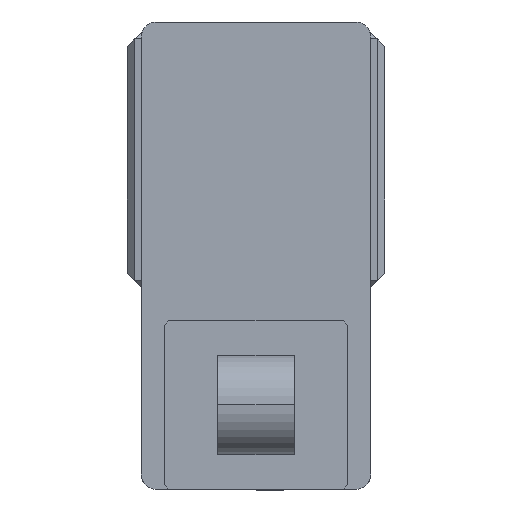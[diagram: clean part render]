
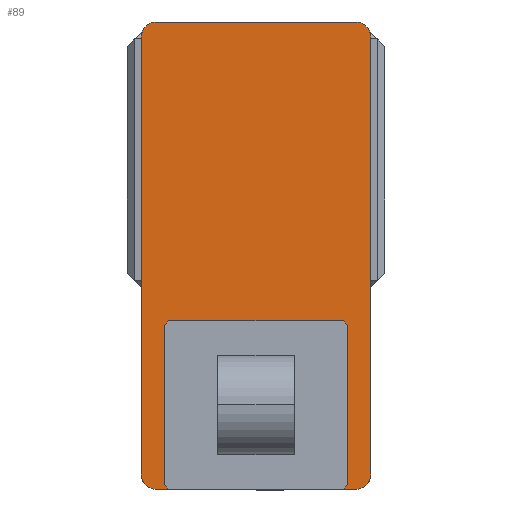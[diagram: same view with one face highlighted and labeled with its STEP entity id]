
A CAD part, left-side view. The second image highlights one B-rep face of the part: STEP entity #89.
In plain terms, the highlighted planar face has unit normal (-1, 0, 0) as drawn and (0, 0, 1) by its records, which use the part's own axes.
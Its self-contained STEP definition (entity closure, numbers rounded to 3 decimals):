
#44 = LINE ( 'NONE', #5698, #8884 ) ;
#89 = ADVANCED_FACE ( 'NONE', ( #10494 ), #9884, .T. ) ;
#474 = ORIENTED_EDGE ( 'NONE', *, *, #2447, .T. ) ;
#800 = CIRCLE ( 'NONE', #1711, 10. ) ;
#1438 = DIRECTION ( 'NONE',  ( -1., 0., 0. ) ) ;
#1464 = EDGE_CURVE ( 'NONE', #2523, #4022, #10730, .T. ) ;
#1531 = VECTOR ( 'NONE', #9940, 1000. ) ;
#1606 = DIRECTION ( 'NONE',  ( 0., 0., 1. ) ) ;
#1686 = DIRECTION ( 'NONE',  ( 1., 0., 0. ) ) ;
#1711 = AXIS2_PLACEMENT_3D ( 'NONE', #6630, #6896, #7592 ) ;
#2041 = AXIS2_PLACEMENT_3D ( 'NONE', #8061, #1606, #1686 ) ;
#2080 = ORIENTED_EDGE ( 'NONE', *, *, #2383, .T. ) ;
#2128 = EDGE_CURVE ( 'NONE', #7899, #8492, #4047, .T. ) ;
#2257 = EDGE_CURVE ( 'NONE', #8492, #9598, #5033, .T. ) ;
#2294 = EDGE_CURVE ( 'NONE', #2899, #7700, #7155, .T. ) ;
#2315 = CARTESIAN_POINT ( 'NONE',  ( -75., 142.5, 105. ) ) ;
#2383 = EDGE_CURVE ( 'NONE', #10972, #2523, #10981, .T. ) ;
#2447 = EDGE_CURVE ( 'NONE', #4022, #7899, #800, .T. ) ;
#2470 = DIRECTION ( 'NONE',  ( 1., 0., 0. ) ) ;
#2523 = VERTEX_POINT ( 'NONE', #2315 ) ;
#2532 = VECTOR ( 'NONE', #1438, 1000. ) ;
#2899 = VERTEX_POINT ( 'NONE', #8103 ) ;
#2918 = AXIS2_PLACEMENT_3D ( 'NONE', #3914, #4686, #6708 ) ;
#2966 = CARTESIAN_POINT ( 'NONE',  ( 65., -152.5, 105. ) ) ;
#3017 = AXIS2_PLACEMENT_3D ( 'NONE', #7603, #7180, #2470 ) ;
#3442 = CARTESIAN_POINT ( 'NONE',  ( 75., -142.5, 105. ) ) ;
#3473 = CARTESIAN_POINT ( 'NONE',  ( 0., 0., 105. ) ) ;
#3914 = CARTESIAN_POINT ( 'NONE',  ( 65., 142.5, 105. ) ) ;
#4001 = ORIENTED_EDGE ( 'NONE', *, *, #2294, .T. ) ;
#4022 = VERTEX_POINT ( 'NONE', #5135 ) ;
#4047 = LINE ( 'NONE', #10674, #1531 ) ;
#4686 = DIRECTION ( 'NONE',  ( 0., 0., 1. ) ) ;
#4786 = DIRECTION ( 'NONE',  ( 1., 0., 0. ) ) ;
#5033 = CIRCLE ( 'NONE', #3017, 10. ) ;
#5084 = EDGE_LOOP ( 'NONE', ( #9999, #5853, #8205, #4001, #6417, #2080, #9300, #474 ) ) ;
#5135 = CARTESIAN_POINT ( 'NONE',  ( -75., -142.5, 105. ) ) ;
#5698 = CARTESIAN_POINT ( 'NONE',  ( 75., 152.5, 105. ) ) ;
#5853 = ORIENTED_EDGE ( 'NONE', *, *, #2257, .T. ) ;
#5938 = CARTESIAN_POINT ( 'NONE',  ( -65., 152.5, 105. ) ) ;
#6152 = CARTESIAN_POINT ( 'NONE',  ( 65., 152.5, 105. ) ) ;
#6417 = ORIENTED_EDGE ( 'NONE', *, *, #11685, .T. ) ;
#6456 = AXIS2_PLACEMENT_3D ( 'NONE', #3473, #8567, #4786 ) ;
#6595 = DIRECTION ( 'NONE',  ( 0., 1., 0. ) ) ;
#6630 = CARTESIAN_POINT ( 'NONE',  ( -65., -142.5, 105. ) ) ;
#6708 = DIRECTION ( 'NONE',  ( 1., 0., 0. ) ) ;
#6876 = CARTESIAN_POINT ( 'NONE',  ( -75., 152.5, 105. ) ) ;
#6896 = DIRECTION ( 'NONE',  ( 0., 0., 1. ) ) ;
#7155 = CIRCLE ( 'NONE', #2918, 10. ) ;
#7180 = DIRECTION ( 'NONE',  ( 0., 0., 1. ) ) ;
#7592 = DIRECTION ( 'NONE',  ( 1., 0., 0. ) ) ;
#7603 = CARTESIAN_POINT ( 'NONE',  ( 65., -142.5, 105. ) ) ;
#7661 = LINE ( 'NONE', #10506, #2532 ) ;
#7700 = VERTEX_POINT ( 'NONE', #6152 ) ;
#7899 = VERTEX_POINT ( 'NONE', #8233 ) ;
#8061 = CARTESIAN_POINT ( 'NONE',  ( -65., 142.5, 105. ) ) ;
#8103 = CARTESIAN_POINT ( 'NONE',  ( 75., 142.5, 105. ) ) ;
#8205 = ORIENTED_EDGE ( 'NONE', *, *, #11376, .T. ) ;
#8233 = CARTESIAN_POINT ( 'NONE',  ( -65., -152.5, 105. ) ) ;
#8401 = VECTOR ( 'NONE', #10445, 1000. ) ;
#8492 = VERTEX_POINT ( 'NONE', #2966 ) ;
#8567 = DIRECTION ( 'NONE',  ( 0., 0., 1. ) ) ;
#8884 = VECTOR ( 'NONE', #6595, 1000. ) ;
#9300 = ORIENTED_EDGE ( 'NONE', *, *, #1464, .T. ) ;
#9598 = VERTEX_POINT ( 'NONE', #3442 ) ;
#9884 = PLANE ( 'NONE',  #6456 ) ;
#9940 = DIRECTION ( 'NONE',  ( 1., 0., 0. ) ) ;
#9999 = ORIENTED_EDGE ( 'NONE', *, *, #2128, .T. ) ;
#10445 = DIRECTION ( 'NONE',  ( 0., -1., 0. ) ) ;
#10494 = FACE_OUTER_BOUND ( 'NONE', #5084, .T. ) ;
#10506 = CARTESIAN_POINT ( 'NONE',  ( -75., 152.5, 105. ) ) ;
#10674 = CARTESIAN_POINT ( 'NONE',  ( -75., -152.5, 105. ) ) ;
#10730 = LINE ( 'NONE', #6876, #8401 ) ;
#10972 = VERTEX_POINT ( 'NONE', #5938 ) ;
#10981 = CIRCLE ( 'NONE', #2041, 10. ) ;
#11376 = EDGE_CURVE ( 'NONE', #9598, #2899, #44, .T. ) ;
#11685 = EDGE_CURVE ( 'NONE', #7700, #10972, #7661, .T. ) ;
